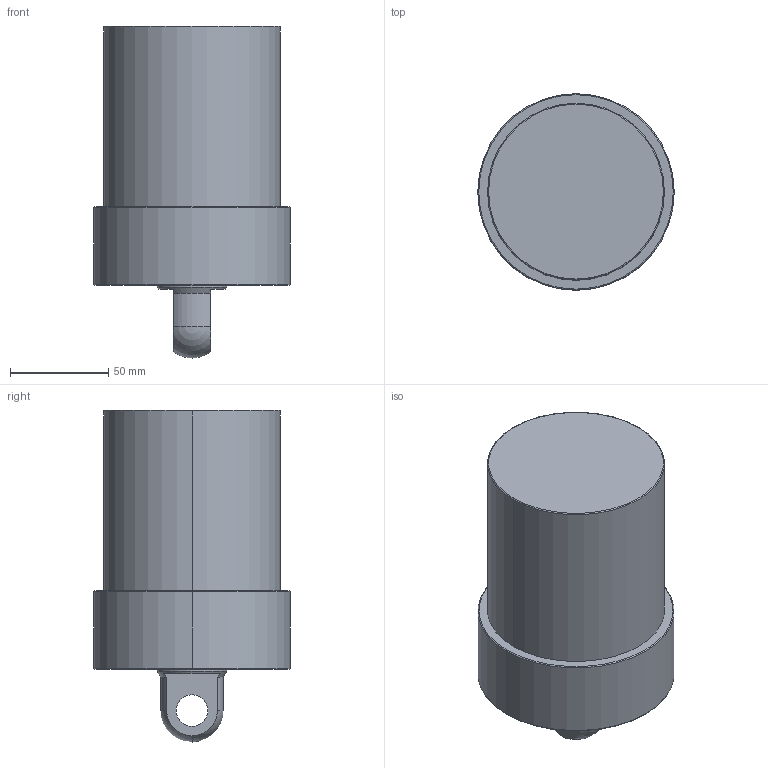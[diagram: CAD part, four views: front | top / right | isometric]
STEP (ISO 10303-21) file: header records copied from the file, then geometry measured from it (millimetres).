
FILE_DESCRIPTION (( 'STEP AP203' ), '1' );
FILE_NAME ('CLLU-090CP-070.STEP', '2020-01-13T03:29:02', ( '' ), ( '' ), 'SwSTEP 2.0', 'SolidWorks 2015', '' );
FILE_SCHEMA (( 'CONFIG_CONTROL_DESIGN' ));
Length unit declared in the file: millimetre
Products named in the file (1): CLLU-090CP-070
Bounding box: 100 x 100 x 169 mm (x, y, z)
Volume: 909121.8 mm3; surface area: 60147.3 mm2
Topology: 1 solids, 1 shells, 57 faces, 134 edges, 77 vertices
Faces by surface type: cylinder 22, cone 18, plane 9, torus 6, sphere 2
Entity records: 1643 total; most frequent: DIRECTION 308, CARTESIAN_POINT 267, ORIENTED_EDGE 244, AXIS2_PLACEMENT_3D 132, EDGE_CURVE 122, VERTEX_POINT 75, CIRCLE 74, EDGE_LOOP 67
